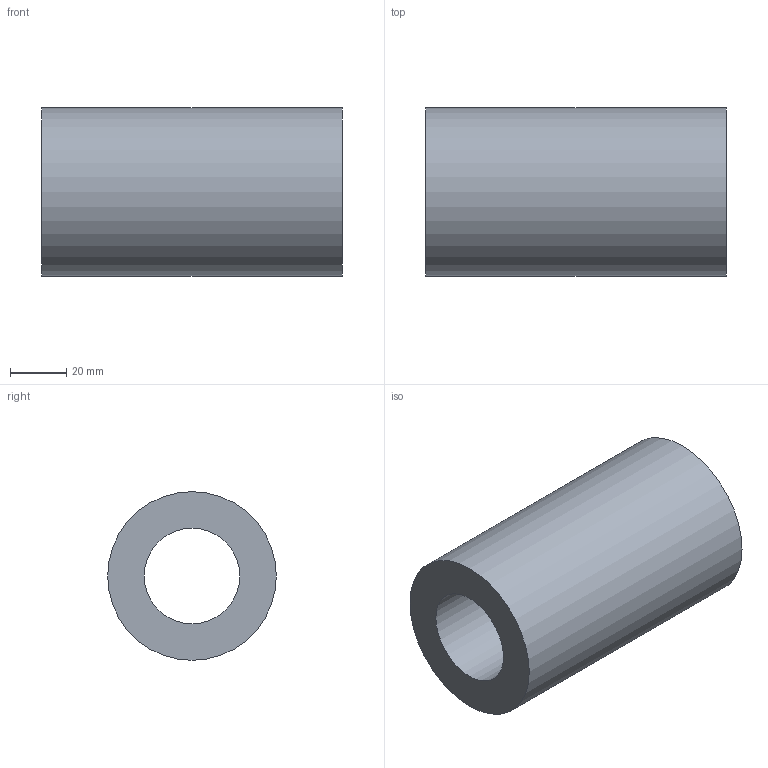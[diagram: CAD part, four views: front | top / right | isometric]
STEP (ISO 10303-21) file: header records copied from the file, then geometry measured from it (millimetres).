
FILE_DESCRIPTION(('Open CASCADE Model'),'2;1');
FILE_NAME('Open CASCADE Shape Model','2026-10-08T06:53:14',('Author'),( 'Open CASCADE'),'Open CASCADE STEP processor 7.8','Open CASCADE 7.8' ,'Unknown');
FILE_SCHEMA(('AUTOMOTIVE_DESIGN { 1 0 10303 214 1 1 1 1 }'));
Length unit declared in the file: millimetre
Products named in the file (1): Open CASCADE STEP translator 7.8 14
Bounding box: 107 x 60 x 60 mm (x, y, z)
Volume: 205387.9 mm3; surface area: 35437.2 mm2
Topology: 1 solids, 1 shells, 4 faces, 6 edges, 4 vertices
Faces by surface type: cylinder 2, plane 2
Full cylindrical faces by diameter (mm): 34 x1, 60 x1
Entity records: 186 total; most frequent: DIRECTION 32, CARTESIAN_POINT 27, ORIENTED_EDGE 12, PCURVE 12, DEFINITIONAL_REPRESENTATION 12, LINE 10, VECTOR 10, AXIS2_PLACEMENT_3D 9
